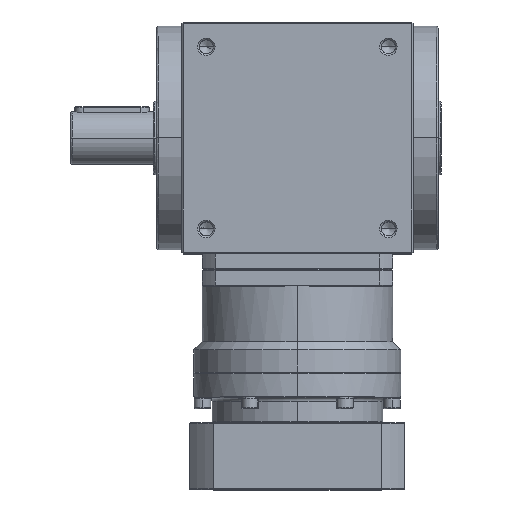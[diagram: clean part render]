
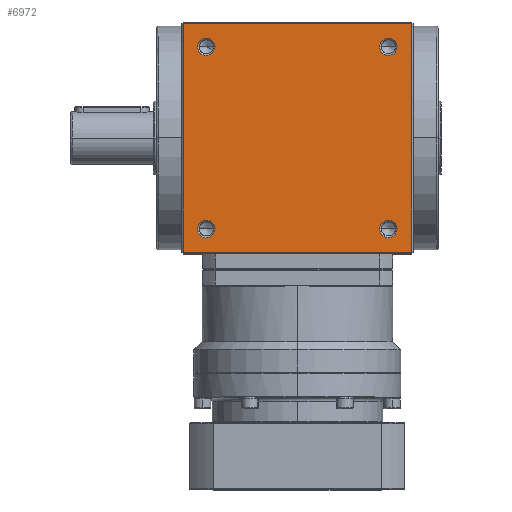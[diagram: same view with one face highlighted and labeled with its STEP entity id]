
A CAD part, top view. The second image highlights one B-rep face of the part: STEP entity #6972.
In plain terms, the highlighted planar face has unit normal (0, 0, 1).
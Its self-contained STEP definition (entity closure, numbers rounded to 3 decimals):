
#296 = CARTESIAN_POINT ( 'NONE',  ( -69., 69., 70. ) ) ;
#365 = EDGE_CURVE ( 'NONE', #31019, #10207, #14050, .T. ) ;
#1027 = ORIENTED_EDGE ( 'NONE', *, *, #27368, .F. ) ;
#1102 = ORIENTED_EDGE ( 'NONE', *, *, #365, .T. ) ;
#1217 = ORIENTED_EDGE ( 'NONE', *, *, #4406, .F. ) ;
#1349 = DIRECTION ( 'NONE',  ( 0., 0., 1. ) ) ;
#1368 = ORIENTED_EDGE ( 'NONE', *, *, #20624, .T. ) ;
#2227 = CIRCLE ( 'NONE', #32066, 5.25 ) ;
#2251 = CARTESIAN_POINT ( 'NONE',  ( 49.75, 55., 70. ) ) ;
#2645 = CARTESIAN_POINT ( 'NONE',  ( 49.75, -55., 70. ) ) ;
#2780 = DIRECTION ( 'NONE',  ( 0., 0., 1. ) ) ;
#3257 = VECTOR ( 'NONE', #22008, 1000. ) ;
#3692 = FACE_BOUND ( 'NONE', #31680, .T. ) ;
#3879 = PLANE ( 'NONE',  #28329 ) ;
#4057 = DIRECTION ( 'NONE',  ( -1., 0., 0. ) ) ;
#4103 = CARTESIAN_POINT ( 'NONE',  ( 55., -55., 70. ) ) ;
#4291 = EDGE_CURVE ( 'NONE', #35206, #26129, #34566, .T. ) ;
#4406 = EDGE_CURVE ( 'NONE', #7776, #19349, #14699, .T. ) ;
#4447 = VERTEX_POINT ( 'NONE', #2251 ) ;
#4898 = CIRCLE ( 'NONE', #34733, 5.25 ) ;
#5161 = CIRCLE ( 'NONE', #9827, 5.25 ) ;
#5456 = ORIENTED_EDGE ( 'NONE', *, *, #30678, .F. ) ;
#5925 = DIRECTION ( 'NONE',  ( 1., 0., 0. ) ) ;
#6476 = EDGE_CURVE ( 'NONE', #31309, #31019, #26301, .T. ) ;
#6972 = ADVANCED_FACE ( 'NONE', ( #17792, #14864, #3692, #32085, #26058 ), #3879, .F. ) ;
#7449 = DIRECTION ( 'NONE',  ( 0., 0., 1. ) ) ;
#7776 = VERTEX_POINT ( 'NONE', #23350 ) ;
#9827 = AXIS2_PLACEMENT_3D ( 'NONE', #18986, #7449, #13118 ) ;
#9912 = DIRECTION ( 'NONE',  ( 1., 0., 0. ) ) ;
#10121 = ORIENTED_EDGE ( 'NONE', *, *, #4291, .F. ) ;
#10207 = VERTEX_POINT ( 'NONE', #296 ) ;
#10259 = CARTESIAN_POINT ( 'NONE',  ( 55., -55., 70. ) ) ;
#10713 = CARTESIAN_POINT ( 'NONE',  ( 60.25, 55., 70. ) ) ;
#11104 = DIRECTION ( 'NONE',  ( -1., 0., 0. ) ) ;
#12683 = VECTOR ( 'NONE', #11104, 1000. ) ;
#13118 = DIRECTION ( 'NONE',  ( 1., 0., 0. ) ) ;
#13897 = CARTESIAN_POINT ( 'NONE',  ( 69., 69., 70. ) ) ;
#14050 = LINE ( 'NONE', #14599, #12683 ) ;
#14097 = ORIENTED_EDGE ( 'NONE', *, *, #14403, .T. ) ;
#14285 = VECTOR ( 'NONE', #5925, 1000. ) ;
#14403 = EDGE_CURVE ( 'NONE', #26946, #31309, #19867, .T. ) ;
#14599 = CARTESIAN_POINT ( 'NONE',  ( 0., 69., 70. ) ) ;
#14699 = CIRCLE ( 'NONE', #35155, 5.25 ) ;
#14864 = FACE_BOUND ( 'NONE', #34905, .T. ) ;
#14914 = DIRECTION ( 'NONE',  ( 0., 0., 1. ) ) ;
#15250 = EDGE_CURVE ( 'NONE', #19349, #7776, #34232, .T. ) ;
#15664 = AXIS2_PLACEMENT_3D ( 'NONE', #29111, #35113, #24327 ) ;
#17111 = CARTESIAN_POINT ( 'NONE',  ( 0., -69., 70. ) ) ;
#17792 = FACE_BOUND ( 'NONE', #31659, .T. ) ;
#17988 = CARTESIAN_POINT ( 'NONE',  ( 0., 0., 70. ) ) ;
#18773 = ORIENTED_EDGE ( 'NONE', *, *, #25620, .F. ) ;
#18774 = AXIS2_PLACEMENT_3D ( 'NONE', #4103, #1349, #27007 ) ;
#18986 = CARTESIAN_POINT ( 'NONE',  ( 55., 55., 70. ) ) ;
#19118 = CARTESIAN_POINT ( 'NONE',  ( -69., -69., 70. ) ) ;
#19349 = VERTEX_POINT ( 'NONE', #21224 ) ;
#19867 = LINE ( 'NONE', #17111, #14285 ) ;
#20346 = CIRCLE ( 'NONE', #15664, 5.25 ) ;
#20624 = EDGE_CURVE ( 'NONE', #10207, #26946, #24757, .T. ) ;
#21224 = CARTESIAN_POINT ( 'NONE',  ( -49.75, 55., 70. ) ) ;
#21274 = ORIENTED_EDGE ( 'NONE', *, *, #15250, .F. ) ;
#21502 = CARTESIAN_POINT ( 'NONE',  ( -60.25, -55., 70. ) ) ;
#21842 = CARTESIAN_POINT ( 'NONE',  ( -55., 55., 70. ) ) ;
#21968 = DIRECTION ( 'NONE',  ( 1., 0., 0. ) ) ;
#22008 = DIRECTION ( 'NONE',  ( 0., -1., 0. ) ) ;
#23017 = VERTEX_POINT ( 'NONE', #24961 ) ;
#23350 = CARTESIAN_POINT ( 'NONE',  ( -60.25, 55., 70. ) ) ;
#23516 = CARTESIAN_POINT ( 'NONE',  ( 69., 0., 70. ) ) ;
#23721 = EDGE_CURVE ( 'NONE', #23017, #26888, #20346, .T. ) ;
#24327 = DIRECTION ( 'NONE',  ( 1., 0., 0. ) ) ;
#24567 = ORIENTED_EDGE ( 'NONE', *, *, #6476, .T. ) ;
#24600 = DIRECTION ( 'NONE',  ( 1., 0., 0. ) ) ;
#24757 = LINE ( 'NONE', #30602, #3257 ) ;
#24794 = EDGE_LOOP ( 'NONE', ( #1027, #10121 ) ) ;
#24909 = CIRCLE ( 'NONE', #29615, 5.25 ) ;
#24961 = CARTESIAN_POINT ( 'NONE',  ( -49.75, -55., 70. ) ) ;
#25139 = DIRECTION ( 'NONE',  ( 1., 0., 0. ) ) ;
#25563 = CARTESIAN_POINT ( 'NONE',  ( -55., -55., 70. ) ) ;
#25620 = EDGE_CURVE ( 'NONE', #26888, #23017, #2227, .T. ) ;
#26058 = FACE_OUTER_BOUND ( 'NONE', #26548, .T. ) ;
#26106 = DIRECTION ( 'NONE',  ( 1., 0., 0. ) ) ;
#26129 = VERTEX_POINT ( 'NONE', #26419 ) ;
#26301 = LINE ( 'NONE', #23516, #32363 ) ;
#26419 = CARTESIAN_POINT ( 'NONE',  ( 60.25, -55., 70. ) ) ;
#26423 = DIRECTION ( 'NONE',  ( 0., 0., 1. ) ) ;
#26548 = EDGE_LOOP ( 'NONE', ( #1102, #1368, #14097, #24567 ) ) ;
#26888 = VERTEX_POINT ( 'NONE', #21502 ) ;
#26946 = VERTEX_POINT ( 'NONE', #19118 ) ;
#27007 = DIRECTION ( 'NONE',  ( 1., 0., 0. ) ) ;
#27301 = CARTESIAN_POINT ( 'NONE',  ( -55., 55., 70. ) ) ;
#27368 = EDGE_CURVE ( 'NONE', #26129, #35206, #4898, .T. ) ;
#27488 = DIRECTION ( 'NONE',  ( 0., 0., 1. ) ) ;
#27896 = DIRECTION ( 'NONE',  ( 0., 0., 1. ) ) ;
#28329 = AXIS2_PLACEMENT_3D ( 'NONE', #17988, #29177, #4057 ) ;
#28465 = ORIENTED_EDGE ( 'NONE', *, *, #23721, .F. ) ;
#29111 = CARTESIAN_POINT ( 'NONE',  ( -55., -55., 70. ) ) ;
#29177 = DIRECTION ( 'NONE',  ( 0., 0., -1. ) ) ;
#29591 = AXIS2_PLACEMENT_3D ( 'NONE', #27301, #27488, #21968 ) ;
#29615 = AXIS2_PLACEMENT_3D ( 'NONE', #30607, #2780, #25139 ) ;
#30602 = CARTESIAN_POINT ( 'NONE',  ( -69., 0., 70. ) ) ;
#30607 = CARTESIAN_POINT ( 'NONE',  ( 55., 55., 70. ) ) ;
#30678 = EDGE_CURVE ( 'NONE', #31473, #4447, #24909, .T. ) ;
#31019 = VERTEX_POINT ( 'NONE', #13897 ) ;
#31309 = VERTEX_POINT ( 'NONE', #32903 ) ;
#31473 = VERTEX_POINT ( 'NONE', #10713 ) ;
#31659 = EDGE_LOOP ( 'NONE', ( #21274, #1217 ) ) ;
#31680 = EDGE_LOOP ( 'NONE', ( #28465, #18773 ) ) ;
#32066 = AXIS2_PLACEMENT_3D ( 'NONE', #25563, #14914, #26106 ) ;
#32085 = FACE_BOUND ( 'NONE', #24794, .T. ) ;
#32333 = EDGE_CURVE ( 'NONE', #4447, #31473, #5161, .T. ) ;
#32363 = VECTOR ( 'NONE', #34857, 1000. ) ;
#32447 = ORIENTED_EDGE ( 'NONE', *, *, #32333, .F. ) ;
#32903 = CARTESIAN_POINT ( 'NONE',  ( 69., -69., 70. ) ) ;
#34232 = CIRCLE ( 'NONE', #29591, 5.25 ) ;
#34566 = CIRCLE ( 'NONE', #18774, 5.25 ) ;
#34733 = AXIS2_PLACEMENT_3D ( 'NONE', #10259, #26423, #9912 ) ;
#34857 = DIRECTION ( 'NONE',  ( 0., 1., 0. ) ) ;
#34905 = EDGE_LOOP ( 'NONE', ( #5456, #32447 ) ) ;
#35113 = DIRECTION ( 'NONE',  ( 0., 0., 1. ) ) ;
#35155 = AXIS2_PLACEMENT_3D ( 'NONE', #21842, #27896, #24600 ) ;
#35206 = VERTEX_POINT ( 'NONE', #2645 ) ;
